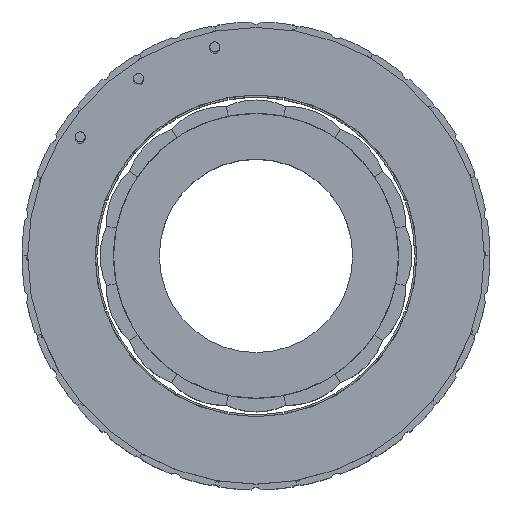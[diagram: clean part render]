
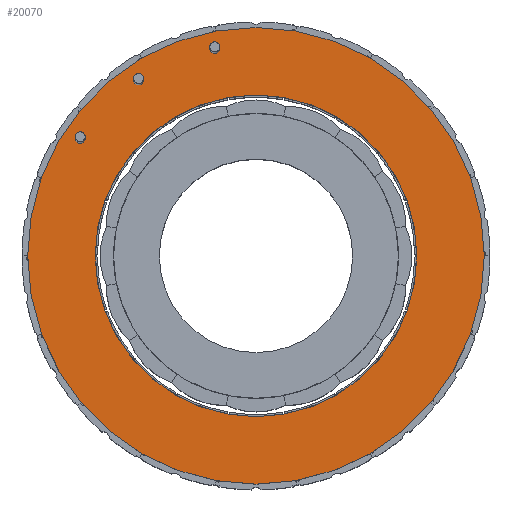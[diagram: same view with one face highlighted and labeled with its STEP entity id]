
A CAD part, top view. The second image highlights one B-rep face of the part: STEP entity #20070.
In plain terms, the highlighted planar face has unit normal (0, 0, 1).
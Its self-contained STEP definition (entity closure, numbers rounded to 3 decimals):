
#251 = DIRECTION ( 'NONE',  ( 1., 0., 0. ) ) ;
#253 = DIRECTION ( 'NONE',  ( 0.924, 0.383, 0. ) ) ;
#481 = FACE_BOUND ( 'NONE', #15700, .T. ) ;
#801 = VERTEX_POINT ( 'NONE', #37291 ) ;
#954 = CARTESIAN_POINT ( 'NONE',  ( -21.174, 47.08, 34.631 ) ) ;
#1274 = DIRECTION ( 'NONE',  ( 1., 0., 0. ) ) ;
#1575 = AXIS2_PLACEMENT_3D ( 'NONE', #7334, #36447, #11300 ) ;
#2995 = VERTEX_POINT ( 'NONE', #35378 ) ;
#3496 = DIRECTION ( 'NONE',  ( 0., 0., 1. ) ) ;
#3536 = FACE_BOUND ( 'NONE', #6906, .T. ) ;
#3772 = DIRECTION ( 'NONE',  ( 0., 0., 1. ) ) ;
#3856 = CARTESIAN_POINT ( 'NONE',  ( -3.131, 54.097, 34.631 ) ) ;
#3987 = CARTESIAN_POINT ( 'NONE',  ( -4.231, 54.097, 34.631 ) ) ;
#4218 = PLANE ( 'NONE',  #30181 ) ;
#4460 = DIRECTION ( 'NONE',  ( 1., 0., 0. ) ) ;
#4542 = ORIENTED_EDGE ( 'NONE', *, *, #38071, .F. ) ;
#4550 = DIRECTION ( 'NONE',  ( 1., 0., 0. ) ) ;
#4757 = DIRECTION ( 'NONE',  ( 0.707, 0.707, 0. ) ) ;
#5921 = CIRCLE ( 'NONE', #21537, 1.1 ) ;
#6508 = CIRCLE ( 'NONE', #27336, 50.75 ) ;
#6906 = EDGE_LOOP ( 'NONE', ( #34501, #8182 ) ) ;
#7067 = VERTEX_POINT ( 'NONE', #31170 ) ;
#7334 = CARTESIAN_POINT ( 'NONE',  ( -21.174, 47.08, 34.631 ) ) ;
#7489 = DIRECTION ( 'NONE',  ( 0., 0., 1. ) ) ;
#8182 = ORIENTED_EDGE ( 'NONE', *, *, #21315, .F. ) ;
#9229 = EDGE_LOOP ( 'NONE', ( #30185, #35436 ) ) ;
#11068 = AXIS2_PLACEMENT_3D ( 'NONE', #3987, #11914, #4460 ) ;
#11300 = DIRECTION ( 'NONE',  ( 0.924, 0.383, 0. ) ) ;
#11629 = CIRCLE ( 'NONE', #38399, 35.75 ) ;
#11914 = DIRECTION ( 'NONE',  ( 0., 0., 1. ) ) ;
#12706 = CARTESIAN_POINT ( 'NONE',  ( 4.938, 8.001, 34.631 ) ) ;
#13353 = CARTESIAN_POINT ( 'NONE',  ( -20.074, 47.08, 34.631 ) ) ;
#14272 = EDGE_CURVE ( 'NONE', #21652, #33871, #24827, .T. ) ;
#14307 = ORIENTED_EDGE ( 'NONE', *, *, #24158, .F. ) ;
#14565 = CARTESIAN_POINT ( 'NONE',  ( -4.231, 54.097, 34.631 ) ) ;
#14901 = CARTESIAN_POINT ( 'NONE',  ( -30.812, 8.001, 34.631 ) ) ;
#15700 = EDGE_LOOP ( 'NONE', ( #36652, #4542 ) ) ;
#15752 = CARTESIAN_POINT ( 'NONE',  ( -5.331, 54.097, 34.631 ) ) ;
#15953 = EDGE_CURVE ( 'NONE', #2995, #20005, #26148, .T. ) ;
#16621 = ORIENTED_EDGE ( 'NONE', *, *, #15953, .F. ) ;
#18212 = DIRECTION ( 'NONE',  ( 0., 0., 1. ) ) ;
#18297 = DIRECTION ( 'NONE',  ( 1., 0., 0. ) ) ;
#18776 = DIRECTION ( 'NONE',  ( 0., 0., 1. ) ) ;
#19724 = CIRCLE ( 'NONE', #37567, 1.1 ) ;
#20005 = VERTEX_POINT ( 'NONE', #13353 ) ;
#20070 = ADVANCED_FACE ( 'NONE', ( #3536, #35683, #29148, #481, #21935 ), #4218, .T. ) ;
#21060 = EDGE_CURVE ( 'NONE', #7067, #801, #19724, .T. ) ;
#21315 = EDGE_CURVE ( 'NONE', #801, #7067, #43557, .T. ) ;
#21509 = CIRCLE ( 'NONE', #30417, 1.1 ) ;
#21537 = AXIS2_PLACEMENT_3D ( 'NONE', #14565, #18776, #18297 ) ;
#21652 = VERTEX_POINT ( 'NONE', #14901 ) ;
#21935 = FACE_OUTER_BOUND ( 'NONE', #9229, .T. ) ;
#22880 = EDGE_CURVE ( 'NONE', #39844, #35253, #6508, .T. ) ;
#24085 = EDGE_CURVE ( 'NONE', #20005, #2995, #21509, .T. ) ;
#24158 = EDGE_CURVE ( 'NONE', #45710, #35215, #40818, .T. ) ;
#24827 = CIRCLE ( 'NONE', #37468, 35.75 ) ;
#24861 = CARTESIAN_POINT ( 'NONE',  ( 4.938, 8.001, 34.631 ) ) ;
#24926 = DIRECTION ( 'NONE',  ( 1., 0., 0. ) ) ;
#25327 = DIRECTION ( 'NONE',  ( 1., 0., 0. ) ) ;
#25735 = AXIS2_PLACEMENT_3D ( 'NONE', #32411, #3772, #29381 ) ;
#26148 = CIRCLE ( 'NONE', #1575, 1.1 ) ;
#27336 = AXIS2_PLACEMENT_3D ( 'NONE', #31905, #3496, #24926 ) ;
#29148 = FACE_BOUND ( 'NONE', #46090, .T. ) ;
#29260 = CARTESIAN_POINT ( 'NONE',  ( -45.812, 8.001, 34.631 ) ) ;
#29381 = DIRECTION ( 'NONE',  ( 0.707, 0.707, 0. ) ) ;
#29678 = CARTESIAN_POINT ( 'NONE',  ( -34.141, 34.112, 34.631 ) ) ;
#30055 = CARTESIAN_POINT ( 'NONE',  ( 55.688, 8.001, 34.631 ) ) ;
#30181 = AXIS2_PLACEMENT_3D ( 'NONE', #42897, #7489, #251 ) ;
#30185 = ORIENTED_EDGE ( 'NONE', *, *, #32373, .T. ) ;
#30417 = AXIS2_PLACEMENT_3D ( 'NONE', #954, #18212, #253 ) ;
#31170 = CARTESIAN_POINT ( 'NONE',  ( -35.241, 34.112, 34.631 ) ) ;
#31905 = CARTESIAN_POINT ( 'NONE',  ( 4.938, 8.001, 34.631 ) ) ;
#32373 = EDGE_CURVE ( 'NONE', #35253, #39844, #34406, .T. ) ;
#32411 = CARTESIAN_POINT ( 'NONE',  ( -34.141, 34.112, 34.631 ) ) ;
#32965 = DIRECTION ( 'NONE',  ( 0., 0., 1. ) ) ;
#33631 = DIRECTION ( 'NONE',  ( 0., 0., 1. ) ) ;
#33871 = VERTEX_POINT ( 'NONE', #43413 ) ;
#34406 = CIRCLE ( 'NONE', #40340, 50.75 ) ;
#34501 = ORIENTED_EDGE ( 'NONE', *, *, #21060, .F. ) ;
#35067 = EDGE_LOOP ( 'NONE', ( #16621, #41552 ) ) ;
#35089 = ORIENTED_EDGE ( 'NONE', *, *, #42018, .F. ) ;
#35215 = VERTEX_POINT ( 'NONE', #15752 ) ;
#35253 = VERTEX_POINT ( 'NONE', #29260 ) ;
#35378 = CARTESIAN_POINT ( 'NONE',  ( -22.274, 47.08, 34.631 ) ) ;
#35436 = ORIENTED_EDGE ( 'NONE', *, *, #22880, .T. ) ;
#35683 = FACE_BOUND ( 'NONE', #35067, .T. ) ;
#36447 = DIRECTION ( 'NONE',  ( 0., 0., 1. ) ) ;
#36652 = ORIENTED_EDGE ( 'NONE', *, *, #14272, .F. ) ;
#36916 = DIRECTION ( 'NONE',  ( 0., 0., 1. ) ) ;
#37291 = CARTESIAN_POINT ( 'NONE',  ( -33.041, 34.112, 34.631 ) ) ;
#37468 = AXIS2_PLACEMENT_3D ( 'NONE', #40174, #32965, #4550 ) ;
#37567 = AXIS2_PLACEMENT_3D ( 'NONE', #29678, #33631, #4757 ) ;
#38071 = EDGE_CURVE ( 'NONE', #33871, #21652, #11629, .T. ) ;
#38399 = AXIS2_PLACEMENT_3D ( 'NONE', #24861, #39752, #25327 ) ;
#39752 = DIRECTION ( 'NONE',  ( 0., 0., 1. ) ) ;
#39844 = VERTEX_POINT ( 'NONE', #30055 ) ;
#40174 = CARTESIAN_POINT ( 'NONE',  ( 4.938, 8.001, 34.631 ) ) ;
#40340 = AXIS2_PLACEMENT_3D ( 'NONE', #12706, #36916, #1274 ) ;
#40818 = CIRCLE ( 'NONE', #11068, 1.1 ) ;
#41552 = ORIENTED_EDGE ( 'NONE', *, *, #24085, .F. ) ;
#42018 = EDGE_CURVE ( 'NONE', #35215, #45710, #5921, .T. ) ;
#42897 = CARTESIAN_POINT ( 'NONE',  ( 4.938, 8.001, 34.631 ) ) ;
#43413 = CARTESIAN_POINT ( 'NONE',  ( 40.688, 8.001, 34.631 ) ) ;
#43557 = CIRCLE ( 'NONE', #25735, 1.1 ) ;
#45710 = VERTEX_POINT ( 'NONE', #3856 ) ;
#46090 = EDGE_LOOP ( 'NONE', ( #35089, #14307 ) ) ;
